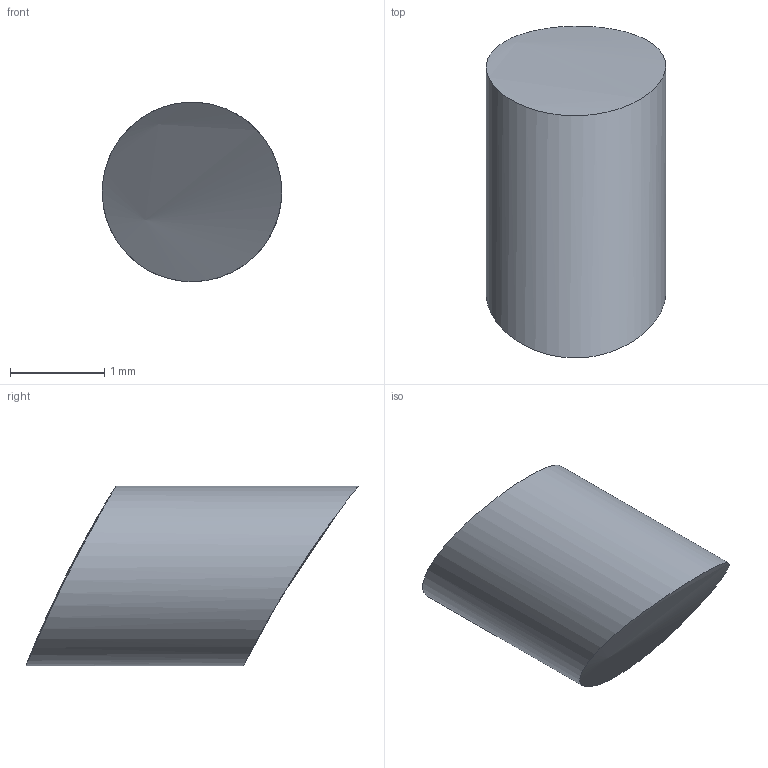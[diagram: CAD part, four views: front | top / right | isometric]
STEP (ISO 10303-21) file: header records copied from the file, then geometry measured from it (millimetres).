
FILE_DESCRIPTION(('Open CASCADE Model'),'2;1');
FILE_NAME('Open CASCADE Shape Model','2026-11-11T21:53:53',('Author'),( 'Open CASCADE'),'Open CASCADE STEP processor 8.0','build123d', 'Unknown');
FILE_SCHEMA(('AUTOMOTIVE_DESIGN { 1 0 10303 214 1 1 1 1 }'));
Length unit declared in the file: millimetre
Products named in the file (1): SOLID
Bounding box: 1.9 x 3.52 x 1.9 mm (x, y, z)
Volume: 6.8 mm3; surface area: 21 mm2
Topology: 1 solids, 1 shells, 3 faces, 3 edges, 2 vertices
Faces by surface type: offset 2, cylinder 1
Full cylindrical faces by diameter (mm): 1.9 x1
Entity records: 12622 total; most frequent: CARTESIAN_POINT 12549, DIRECTION 7, ORIENTED_EDGE 6, B_SPLINE_CURVE_WITH_KNOTS 6, PCURVE 6, DEFINITIONAL_REPRESENTATION 6, ADVANCED_FACE 3, FACE_BOUND 3
